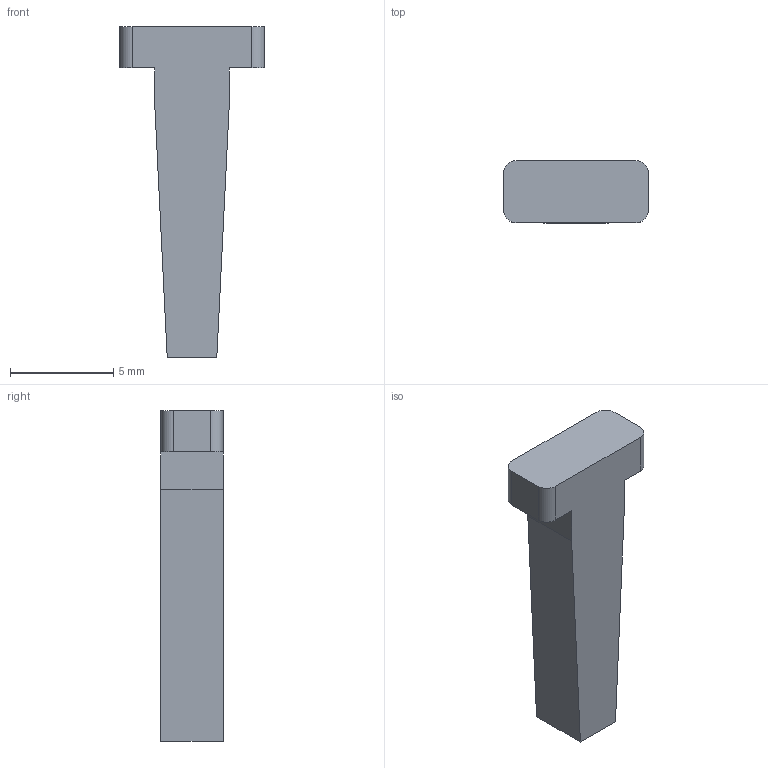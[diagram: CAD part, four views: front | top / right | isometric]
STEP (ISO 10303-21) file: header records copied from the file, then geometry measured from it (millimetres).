
FILE_DESCRIPTION(('Open CASCADE Model'),'2;1');
FILE_NAME('Open CASCADE Shape Model','2026-10-23T20:21:34',('Author'),( 'Open CASCADE'),'Open CASCADE STEP processor 7.8','Open CASCADE 7.8' ,'Unknown');
FILE_SCHEMA(('AUTOMOTIVE_DESIGN { 1 0 10303 214 1 1 1 1 }'));
Length unit declared in the file: millimetre
Products named in the file (1): Open CASCADE STEP translator 7.8 8
Bounding box: 7 x 3 x 16 mm (x, y, z)
Volume: 170.6 mm3; surface area: 246 mm2
Topology: 1 solids, 1 shells, 16 faces, 42 edges, 28 vertices
Faces by surface type: plane 12, cylinder 4
Entity records: 1050 total; most frequent: CARTESIAN_POINT 207, DIRECTION 152, LINE 98, VECTOR 98, ORIENTED_EDGE 84, PCURVE 84, DEFINITIONAL_REPRESENTATION 84, EDGE_CURVE 42
